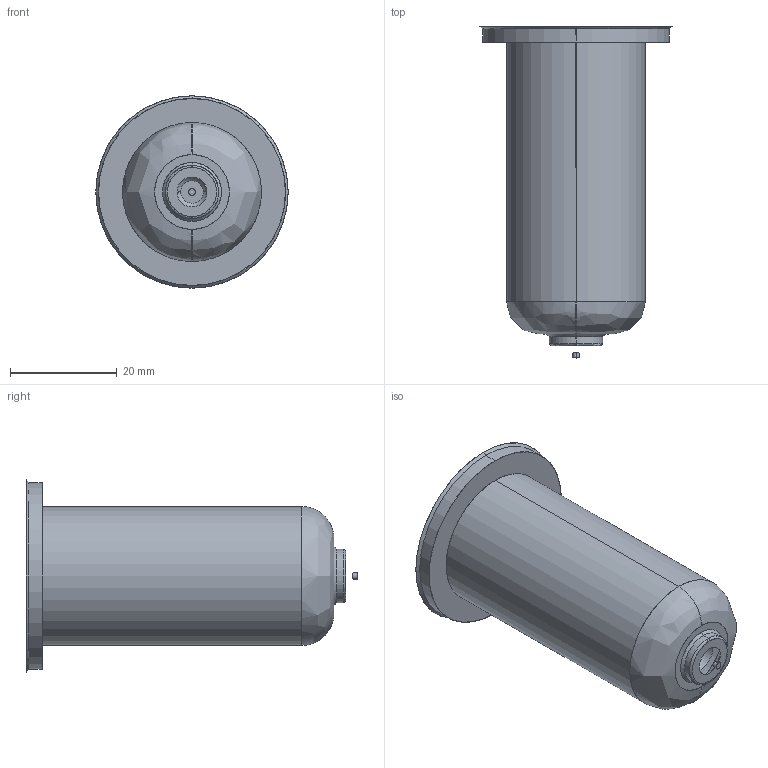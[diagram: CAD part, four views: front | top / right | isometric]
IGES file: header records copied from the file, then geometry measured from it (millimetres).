
Start section: SolidWorks IGES file using analytic representation for surfaces
Global section: file name: C:\Documents and Settings\ws-20\Desktop\TEM\Sede UGER3551-M-A C-59 L-89 Ød-1.1.IGS; native system: SolidWorks 2012; preprocessor: SolidWorks 2012; author: ws-20; date: 120410.084508; units: millimetre
Bounding box: 36 x 62.15 x 36 mm (x, y, z)
Surface area: 6655.7 mm2 (no closed solid volume)
Topology: 0 solids, 0 shells, 23 faces, 380 edges, 380 vertices
Faces by surface type: revolution 14, bspline 9
